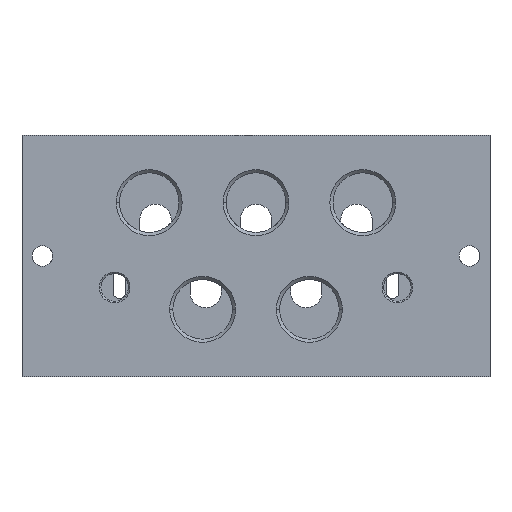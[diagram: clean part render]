
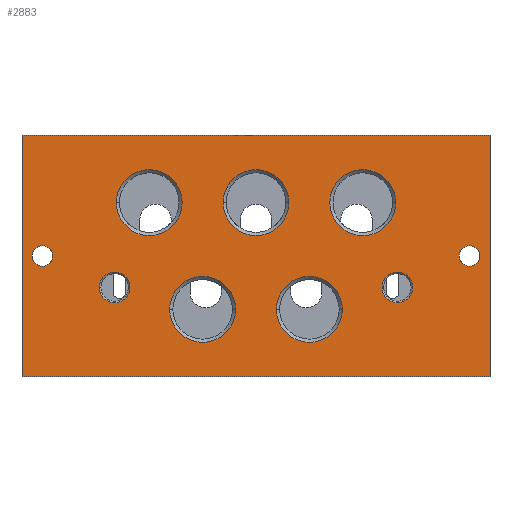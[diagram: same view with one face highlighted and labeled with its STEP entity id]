
A CAD part, front view. The second image highlights one B-rep face of the part: STEP entity #2883.
In plain terms, the highlighted planar face has unit normal (0, -1, 0).
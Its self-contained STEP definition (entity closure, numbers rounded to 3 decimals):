
#30=DIRECTION('',(1.,0.,0.));
#31=VECTOR('',#30,149.);
#32=CARTESIAN_POINT('',(-74.5,0.,-38.5));
#33=LINE('',#32,#31);
#693=DIRECTION('',(0.,0.,1.));
#694=VECTOR('',#693,77.);
#695=CARTESIAN_POINT('',(-74.5,0.,-38.5));
#696=LINE('',#695,#694);
#697=CARTESIAN_POINT('',(68.,0.,0.));
#698=DIRECTION('',(0.,1.,0.));
#699=DIRECTION('',(1.,0.,0.));
#700=AXIS2_PLACEMENT_3D('',#697,#698,#699);
#702=CARTESIAN_POINT('',(68.,0.,0.));
#703=DIRECTION('',(0.,1.,0.));
#704=DIRECTION('',(-1.,0.,0.));
#705=AXIS2_PLACEMENT_3D('',#702,#703,#704);
#707=CARTESIAN_POINT('',(-68.,0.,0.));
#708=DIRECTION('',(0.,1.,0.));
#709=DIRECTION('',(1.,0.,0.));
#710=AXIS2_PLACEMENT_3D('',#707,#708,#709);
#712=CARTESIAN_POINT('',(-68.,0.,0.));
#713=DIRECTION('',(0.,1.,0.));
#714=DIRECTION('',(-1.,0.,0.));
#715=AXIS2_PLACEMENT_3D('',#712,#713,#714);
#717=CARTESIAN_POINT('',(34.,0.,17.));
#718=DIRECTION('',(0.,1.,0.));
#719=DIRECTION('',(1.,0.,0.));
#720=AXIS2_PLACEMENT_3D('',#717,#718,#719);
#722=CARTESIAN_POINT('',(34.,0.,17.));
#723=DIRECTION('',(0.,1.,0.));
#724=DIRECTION('',(-1.,0.,0.));
#725=AXIS2_PLACEMENT_3D('',#722,#723,#724);
#727=CARTESIAN_POINT('',(0.,0.,17.));
#728=DIRECTION('',(0.,1.,0.));
#729=DIRECTION('',(1.,0.,0.));
#730=AXIS2_PLACEMENT_3D('',#727,#728,#729);
#732=CARTESIAN_POINT('',(0.,0.,17.));
#733=DIRECTION('',(0.,1.,0.));
#734=DIRECTION('',(-1.,0.,0.));
#735=AXIS2_PLACEMENT_3D('',#732,#733,#734);
#737=CARTESIAN_POINT('',(-34.,0.,17.));
#738=DIRECTION('',(0.,1.,0.));
#739=DIRECTION('',(1.,0.,0.));
#740=AXIS2_PLACEMENT_3D('',#737,#738,#739);
#742=CARTESIAN_POINT('',(-34.,0.,17.));
#743=DIRECTION('',(0.,1.,0.));
#744=DIRECTION('',(-1.,0.,0.));
#745=AXIS2_PLACEMENT_3D('',#742,#743,#744);
#747=CARTESIAN_POINT('',(-17.,0.,-17.));
#748=DIRECTION('',(0.,1.,0.));
#749=DIRECTION('',(1.,0.,0.));
#750=AXIS2_PLACEMENT_3D('',#747,#748,#749);
#752=CARTESIAN_POINT('',(-17.,0.,-17.));
#753=DIRECTION('',(0.,1.,0.));
#754=DIRECTION('',(-1.,0.,0.));
#755=AXIS2_PLACEMENT_3D('',#752,#753,#754);
#757=CARTESIAN_POINT('',(17.,0.,-17.));
#758=DIRECTION('',(0.,1.,0.));
#759=DIRECTION('',(-1.,0.,0.));
#760=AXIS2_PLACEMENT_3D('',#757,#758,#759);
#762=CARTESIAN_POINT('',(17.,0.,-17.));
#763=DIRECTION('',(0.,1.,0.));
#764=DIRECTION('',(1.,0.,0.));
#765=AXIS2_PLACEMENT_3D('',#762,#763,#764);
#767=CARTESIAN_POINT('',(-45.,0.,-10.));
#768=DIRECTION('',(0.,1.,0.));
#769=DIRECTION('',(-1.,0.,0.));
#770=AXIS2_PLACEMENT_3D('',#767,#768,#769);
#772=CARTESIAN_POINT('',(-45.,0.,-10.));
#773=DIRECTION('',(0.,1.,0.));
#774=DIRECTION('',(1.,0.,0.));
#775=AXIS2_PLACEMENT_3D('',#772,#773,#774);
#777=CARTESIAN_POINT('',(45.,0.,-10.));
#778=DIRECTION('',(0.,1.,0.));
#779=DIRECTION('',(-1.,0.,0.));
#780=AXIS2_PLACEMENT_3D('',#777,#778,#779);
#782=CARTESIAN_POINT('',(45.,0.,-10.));
#783=DIRECTION('',(0.,1.,0.));
#784=DIRECTION('',(1.,0.,0.));
#785=AXIS2_PLACEMENT_3D('',#782,#783,#784);
#815=DIRECTION('',(1.,0.,0.));
#816=VECTOR('',#815,149.);
#817=CARTESIAN_POINT('',(-74.5,0.,38.5));
#818=LINE('',#817,#816);
#847=DIRECTION('',(0.,0.,1.));
#848=VECTOR('',#847,77.);
#849=CARTESIAN_POINT('',(74.5,0.,-38.5));
#850=LINE('',#849,#848);
#1674=CARTESIAN_POINT('',(-74.5,0.,-38.5));
#1675=CARTESIAN_POINT('',(74.5,0.,-38.5));
#1676=VERTEX_POINT('',#1674);
#1677=VERTEX_POINT('',#1675);
#1678=CARTESIAN_POINT('',(-74.5,0.,38.5));
#1679=CARTESIAN_POINT('',(74.5,0.,38.5));
#1680=VERTEX_POINT('',#1678);
#1681=VERTEX_POINT('',#1679);
#1826=CARTESIAN_POINT('',(44.478,0.,17.));
#1827=CARTESIAN_POINT('',(23.523,0.,17.));
#1828=VERTEX_POINT('',#1826);
#1829=VERTEX_POINT('',#1827);
#1834=CARTESIAN_POINT('',(10.478,0.,17.));
#1835=CARTESIAN_POINT('',(-10.478,0.,17.));
#1836=VERTEX_POINT('',#1834);
#1837=VERTEX_POINT('',#1835);
#1842=CARTESIAN_POINT('',(-23.523,0.,17.));
#1843=CARTESIAN_POINT('',(-44.478,0.,17.));
#1844=VERTEX_POINT('',#1842);
#1845=VERTEX_POINT('',#1843);
#1850=CARTESIAN_POINT('',(-6.523,0.,-17.));
#1851=CARTESIAN_POINT('',(-27.478,0.,-17.));
#1852=VERTEX_POINT('',#1850);
#1853=VERTEX_POINT('',#1851);
#1858=CARTESIAN_POINT('',(6.523,0.,-17.));
#1859=CARTESIAN_POINT('',(27.478,0.,-17.));
#1860=VERTEX_POINT('',#1858);
#1861=VERTEX_POINT('',#1859);
#1866=CARTESIAN_POINT('',(-49.864,0.,-10.));
#1867=CARTESIAN_POINT('',(-40.136,0.,-10.));
#1868=VERTEX_POINT('',#1866);
#1869=VERTEX_POINT('',#1867);
#1874=CARTESIAN_POINT('',(40.136,0.,-10.));
#1875=CARTESIAN_POINT('',(49.864,0.,-10.));
#1876=VERTEX_POINT('',#1874);
#1877=VERTEX_POINT('',#1875);
#1906=CARTESIAN_POINT('',(71.3,0.,0.));
#1907=CARTESIAN_POINT('',(64.7,0.,0.));
#1908=VERTEX_POINT('',#1906);
#1909=VERTEX_POINT('',#1907);
#1910=CARTESIAN_POINT('',(-64.7,0.,0.));
#1911=CARTESIAN_POINT('',(-71.3,0.,0.));
#1912=VERTEX_POINT('',#1910);
#1913=VERTEX_POINT('',#1911);
#2816=CARTESIAN_POINT('',(-74.5,0.,-38.5));
#2817=DIRECTION('',(0.,-1.,0.));
#2818=DIRECTION('',(1.,0.,0.));
#2819=AXIS2_PLACEMENT_3D('',#2816,#2817,#2818);
#2820=PLANE('',#2819);
#2821=ORIENTED_EDGE('',*,*,#2023,.F.);
#2823=ORIENTED_EDGE('',*,*,#2822,.T.);
#2825=ORIENTED_EDGE('',*,*,#2824,.T.);
#2827=ORIENTED_EDGE('',*,*,#2826,.F.);
#2828=EDGE_LOOP('',(#2821,#2823,#2825,#2827));
#2829=FACE_OUTER_BOUND('',#2828,.F.);
#2831=ORIENTED_EDGE('',*,*,#2830,.F.);
#2833=ORIENTED_EDGE('',*,*,#2832,.F.);
#2834=EDGE_LOOP('',(#2831,#2833));
#2835=FACE_BOUND('',#2834,.F.);
#2837=ORIENTED_EDGE('',*,*,#2836,.F.);
#2839=ORIENTED_EDGE('',*,*,#2838,.F.);
#2840=EDGE_LOOP('',(#2837,#2839));
#2841=FACE_BOUND('',#2840,.F.);
#2843=ORIENTED_EDGE('',*,*,#2842,.F.);
#2845=ORIENTED_EDGE('',*,*,#2844,.F.);
#2846=EDGE_LOOP('',(#2843,#2845));
#2847=FACE_BOUND('',#2846,.F.);
#2849=ORIENTED_EDGE('',*,*,#2848,.F.);
#2851=ORIENTED_EDGE('',*,*,#2850,.F.);
#2852=EDGE_LOOP('',(#2849,#2851));
#2853=FACE_BOUND('',#2852,.F.);
#2854=ORIENTED_EDGE('',*,*,#2806,.F.);
#2856=ORIENTED_EDGE('',*,*,#2855,.F.);
#2857=EDGE_LOOP('',(#2854,#2856));
#2858=FACE_BOUND('',#2857,.F.);
#2860=ORIENTED_EDGE('',*,*,#2859,.F.);
#2862=ORIENTED_EDGE('',*,*,#2861,.F.);
#2863=EDGE_LOOP('',(#2860,#2862));
#2864=FACE_BOUND('',#2863,.F.);
#2866=ORIENTED_EDGE('',*,*,#2865,.F.);
#2868=ORIENTED_EDGE('',*,*,#2867,.F.);
#2869=EDGE_LOOP('',(#2866,#2868));
#2870=FACE_BOUND('',#2869,.F.);
#2872=ORIENTED_EDGE('',*,*,#2871,.F.);
#2874=ORIENTED_EDGE('',*,*,#2873,.F.);
#2875=EDGE_LOOP('',(#2872,#2874));
#2876=FACE_BOUND('',#2875,.F.);
#2878=ORIENTED_EDGE('',*,*,#2877,.F.);
#2880=ORIENTED_EDGE('',*,*,#2879,.F.);
#2881=EDGE_LOOP('',(#2878,#2880));
#2882=FACE_BOUND('',#2881,.F.);
#2883=ADVANCED_FACE('',(#2829,#2835,#2841,#2847,#2853,#2858,#2864,#2870,#2876,
#2882),#2820,.T.);
#701=CIRCLE('',#700,3.3);
#706=CIRCLE('',#705,3.3);
#711=CIRCLE('',#710,3.3);
#716=CIRCLE('',#715,3.3);
#721=CIRCLE('',#720,10.478);
#726=CIRCLE('',#725,10.478);
#731=CIRCLE('',#730,10.478);
#736=CIRCLE('',#735,10.478);
#741=CIRCLE('',#740,10.478);
#746=CIRCLE('',#745,10.478);
#751=CIRCLE('',#750,10.478);
#756=CIRCLE('',#755,10.478);
#761=CIRCLE('',#760,10.478);
#766=CIRCLE('',#765,10.478);
#771=CIRCLE('',#770,4.864);
#776=CIRCLE('',#775,4.864);
#781=CIRCLE('',#780,4.864);
#786=CIRCLE('',#785,4.864);
#2023=EDGE_CURVE('',#1676,#1677,#33,.T.);
#2806=EDGE_CURVE('',#1844,#1845,#741,.T.);
#2822=EDGE_CURVE('',#1676,#1680,#696,.T.);
#2824=EDGE_CURVE('',#1680,#1681,#818,.T.);
#2826=EDGE_CURVE('',#1677,#1681,#850,.T.);
#2830=EDGE_CURVE('',#1908,#1909,#701,.T.);
#2832=EDGE_CURVE('',#1909,#1908,#706,.T.);
#2836=EDGE_CURVE('',#1912,#1913,#711,.T.);
#2838=EDGE_CURVE('',#1913,#1912,#716,.T.);
#2842=EDGE_CURVE('',#1828,#1829,#721,.T.);
#2844=EDGE_CURVE('',#1829,#1828,#726,.T.);
#2848=EDGE_CURVE('',#1836,#1837,#731,.T.);
#2850=EDGE_CURVE('',#1837,#1836,#736,.T.);
#2855=EDGE_CURVE('',#1845,#1844,#746,.T.);
#2859=EDGE_CURVE('',#1852,#1853,#751,.T.);
#2861=EDGE_CURVE('',#1853,#1852,#756,.T.);
#2865=EDGE_CURVE('',#1860,#1861,#761,.T.);
#2867=EDGE_CURVE('',#1861,#1860,#766,.T.);
#2871=EDGE_CURVE('',#1868,#1869,#771,.T.);
#2873=EDGE_CURVE('',#1869,#1868,#776,.T.);
#2877=EDGE_CURVE('',#1876,#1877,#781,.T.);
#2879=EDGE_CURVE('',#1877,#1876,#786,.T.);
